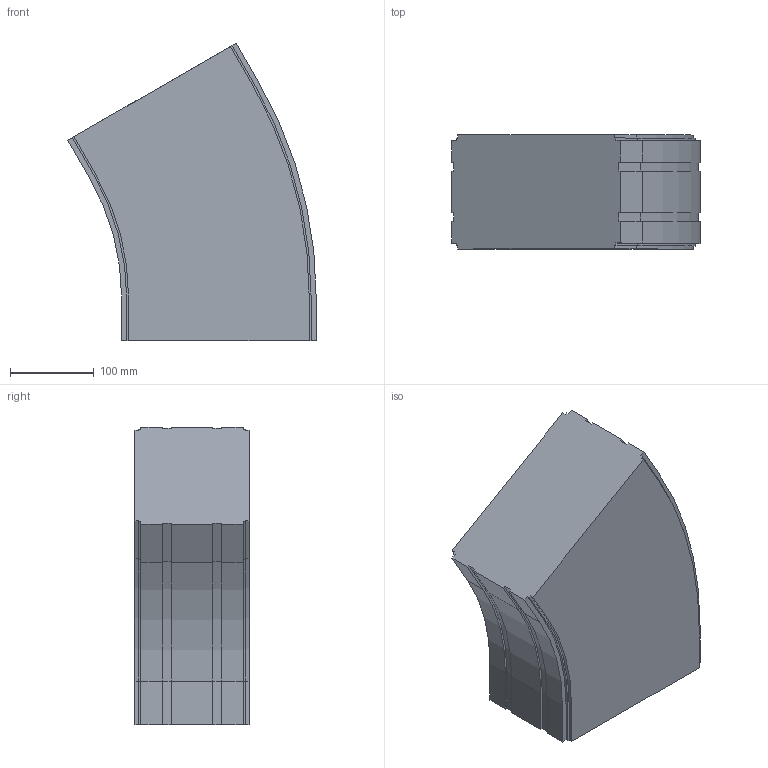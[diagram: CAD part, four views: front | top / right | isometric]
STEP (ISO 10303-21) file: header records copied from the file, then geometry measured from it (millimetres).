
FILE_DESCRIPTION (( 'STEP AP214' ), '1' );
FILE_NAME ('FS-MTC2-150-INOX horizontaalbocht.230 30°.STEP', '2017-02-08T12:40:25', ( '' ), ( '' ), 'SwSTEP 2.0', 'SolidWorks 2016', '' );
FILE_SCHEMA (( 'AUTOMOTIVE_DESIGN' ));
Length unit declared in the file: millimetre
Products named in the file (1): FS-MTC2-150-INOX horizontaalbocht.230 30°
Bounding box: 296.77 x 136.5 x 356.09 mm (x, y, z)
Volume: 9881717.5 mm3; surface area: 301198 mm2
Topology: 1 solids, 1 shells, 74 faces, 216 edges, 144 vertices
Faces by surface type: plane 56, cylinder 18
Entity records: 2470 total; most frequent: CARTESIAN_POINT 435, ORIENTED_EDGE 432, DIRECTION 402, EDGE_CURVE 216, LINE 180, VECTOR 180, VERTEX_POINT 144, AXIS2_PLACEMENT_3D 111
